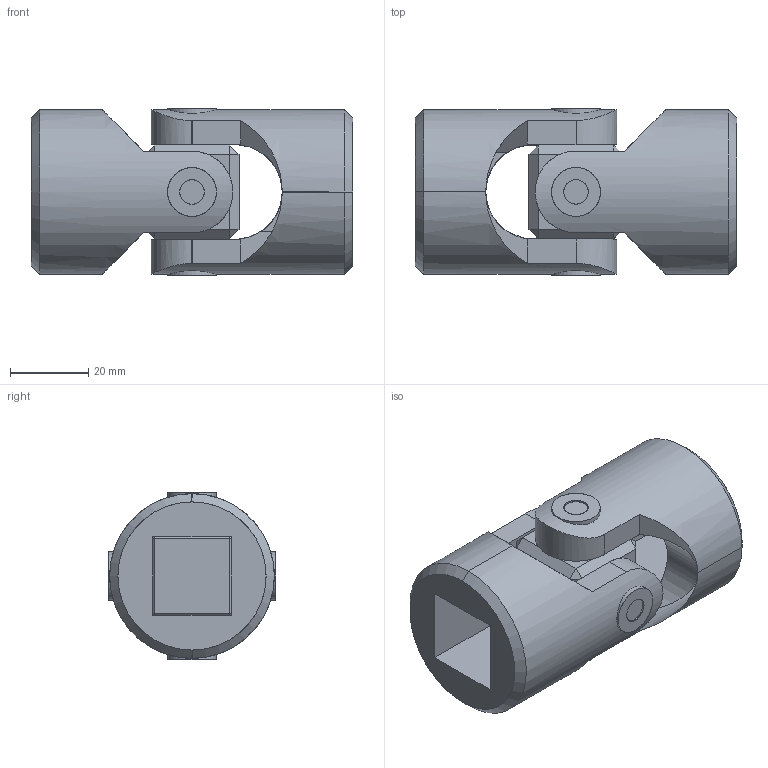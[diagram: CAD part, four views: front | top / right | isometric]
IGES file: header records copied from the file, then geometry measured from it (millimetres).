
Start section: SolidWorks IGES file using analytic representation for surfaces
Global section: file name: C:\Users\IanO\Desktop\R3690_v2\R3690_v2_20231020_IGES\R3690.020-SB.igs; native system: SolidWorks 2019; preprocessor: SolidWorks 2019; author: IanO; date: 231020.153017; units: millimetre
Bounding box: 82 x 42.84 x 42.84 mm (x, y, z)
Surface area: 26484.2 mm2 (no closed solid volume)
Topology: 0 solids, 0 shells, 108 faces, 2136 edges, 2136 vertices
Faces by surface type: bspline 64, revolution 44
